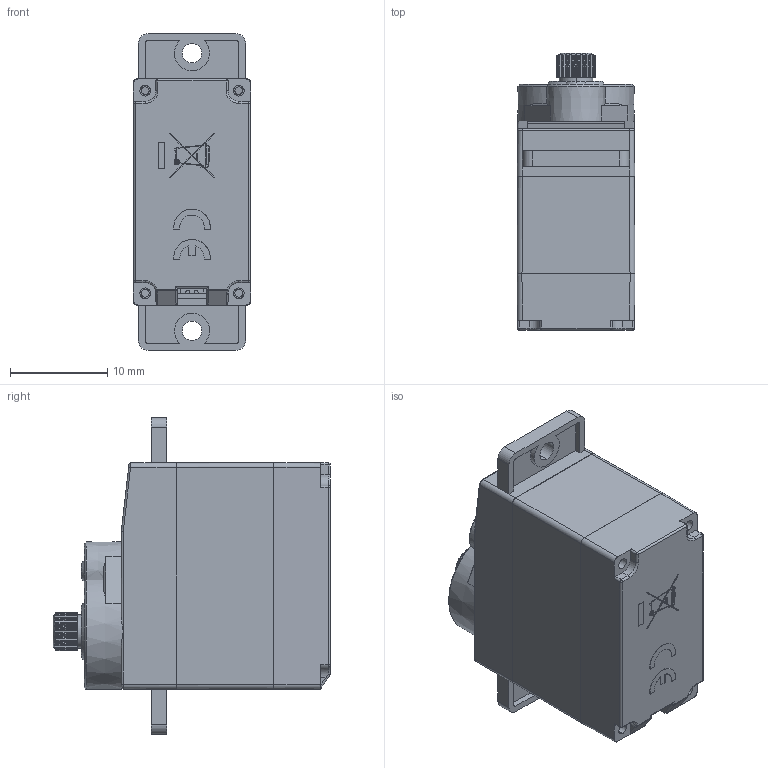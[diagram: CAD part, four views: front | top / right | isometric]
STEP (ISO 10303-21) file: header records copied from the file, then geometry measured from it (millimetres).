
FILE_DESCRIPTION((''),'2;1');
FILE_NAME('SCS009-20201118-S_ASM','2023-01-10T',('WUSALT01'),(''),'PRO/ENGINEER BY PARAMETRIC TECHNOLOGY CORPORATION, 2008380','PRO/ENGINEER BY PARAMETRIC TECHNOLOGY CORPORATION, 2008380','');
FILE_SCHEMA(('AUTOMOTIVE_DESIGN_CC2 { 1 2 10303 214 -1 1 5 2 }'));
Length unit declared in the file: millimetre
Products named in the file (9): SJ-WK00-0038-TOPCASE-0716_41_1; SJ-WK00-0039-COREMIDDLE-0716_65; SJ-WK00-0037-BOTTOMCASE-0716_9_; SJ-CL00-0027-OUTPUTGEAR-0716_37; OUTPUTGEAR_ASM_11_ASM_1_ASM_ASM; FT90M-C001_ASM_3_ASM_1_ASM_ASM; FT90M-C001-20201118_ASM_1_ASM_ASM; SCS0009-20201118-S_ASM_ASM; SCS009-20201118-S_ASM
Assembly tree (8 placements, depth 6):
  SCS009-20201118-S_ASM
    SCS0009-20201118-S_ASM_ASM
      FT90M-C001-20201118_ASM_1_ASM_ASM
        FT90M-C001_ASM_3_ASM_1_ASM_ASM
          SJ-WK00-0038-TOPCASE-0716_41_1
          SJ-WK00-0039-COREMIDDLE-0716_65
          SJ-WK00-0037-BOTTOMCASE-0716_9_
          OUTPUTGEAR_ASM_11_ASM_1_ASM_ASM
            SJ-CL00-0027-OUTPUTGEAR-0716_37
Bounding box: 12.1 x 28.51 x 32.5 mm (x, y, z)
Volume: 2152.6 mm3; surface area: 5302.8 mm2
Topology: 4 solids, 4 shells, 929 faces, 2743 edges, 1842 vertices
Faces by surface type: plane 403, cylinder 369, extrusion 77, cone 40, bspline 20, sphere 12, torus 8
Entity records: 37630 total; most frequent: CARTESIAN_POINT 12691, ORIENTED_EDGE 5462, DIRECTION 4921, EDGE_CURVE 2731, VERTEX_POINT 1842, AXIS2_PLACEMENT_3D 1734, VECTOR 1453, LINE 1376
